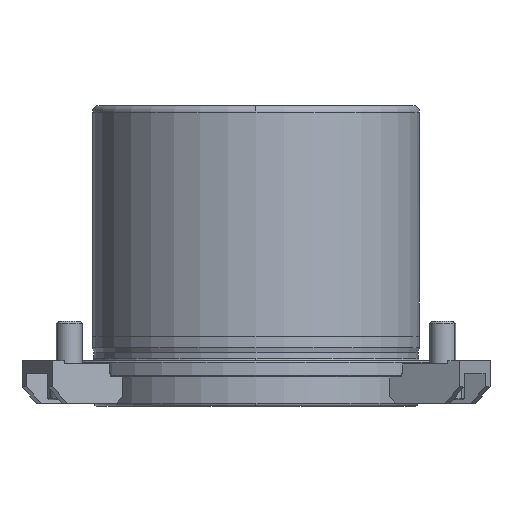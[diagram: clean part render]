
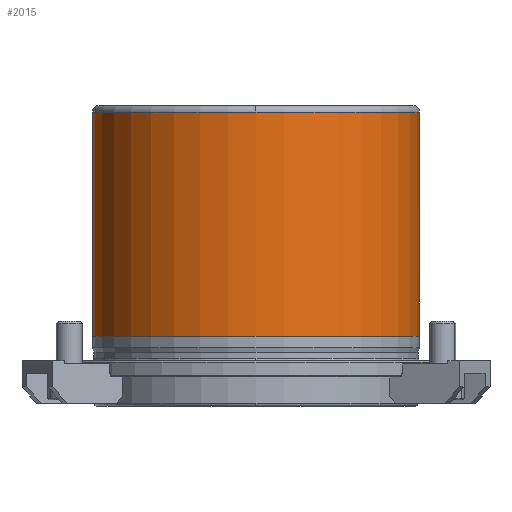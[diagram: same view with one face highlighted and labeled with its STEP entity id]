
A CAD part, front view. The second image highlights one B-rep face of the part: STEP entity #2015.
In plain terms, the highlighted cylindrical face has radius 49.995 mm (diameter 99.99 mm), a partial arc.
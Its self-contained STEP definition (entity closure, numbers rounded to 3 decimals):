
#954=CARTESIAN_POINT('',(49.995,0.,7.4));
#955=VERTEX_POINT('',#954);
#956=CARTESIAN_POINT('',(49.995,0.,29.4));
#957=VERTEX_POINT('',#956);
#958=CARTESIAN_POINT('',(49.995,0.,7.4));
#959=DIRECTION('',(0.0,0.0,1.0));
#960=VECTOR('',#959,22.0);
#961=LINE('',#958,#960);
#962=EDGE_CURVE('',#955,#957,#961,.T.);
#964=CARTESIAN_POINT('',(-49.995,0.,7.4));
#965=VERTEX_POINT('',#964);
#973=CARTESIAN_POINT('',(-49.995,0.,76.0));
#974=VERTEX_POINT('',#973);
#975=CARTESIAN_POINT('',(-49.995,0.,7.4));
#976=DIRECTION('',(0.0,0.0,1.0));
#977=VECTOR('',#976,68.6);
#978=LINE('',#975,#977);
#979=EDGE_CURVE('',#965,#974,#978,.T.);
#990=CARTESIAN_POINT('',(49.995,0.,76.0));
#991=VERTEX_POINT('',#990);
#999=CARTESIAN_POINT('',(49.995,0.,34.6));
#1000=VERTEX_POINT('',#999);
#1001=CARTESIAN_POINT('',(49.995,0.,34.6));
#1002=DIRECTION('',(0.0,0.0,1.0));
#1003=VECTOR('',#1002,41.4);
#1004=LINE('',#1001,#1003);
#1005=EDGE_CURVE('',#1000,#991,#1004,.T.);
#1062=CARTESIAN_POINT('',(0.,-49.995,76.));
#1063=VERTEX_POINT('',#1062);
#1064=CARTESIAN_POINT('',(0.0,0.,76.0));
#1065=DIRECTION('',(0.0,0.0,-1.0));
#1066=DIRECTION('',(1.0,0.0,0.0));
#1067=AXIS2_PLACEMENT_3D('',#1064,#1065,#1066);
#1068=CIRCLE('',#1067,49.995);
#1069=EDGE_CURVE('',#1063,#974,#1068,.T.);
#1515=CARTESIAN_POINT('',(49.927,-2.6,32.0));
#1516=VERTEX_POINT('',#1515);
#1517=CARTESIAN_POINT('',(49.927,-2.6,32.0));
#1518=CARTESIAN_POINT('',(49.927,-2.6,32.163));
#1519=CARTESIAN_POINT('',(49.928,-2.584,32.332));
#1520=CARTESIAN_POINT('',(49.932,-2.519,32.668));
#1521=CARTESIAN_POINT('',(49.934,-2.468,32.835));
#1522=CARTESIAN_POINT('',(49.94,-2.336,33.155));
#1523=CARTESIAN_POINT('',(49.944,-2.253,33.309));
#1524=CARTESIAN_POINT('',(49.953,-2.062,33.593));
#1525=CARTESIAN_POINT('',(49.957,-1.954,33.723));
#1526=CARTESIAN_POINT('',(49.965,-1.723,33.954));
#1527=CARTESIAN_POINT('',(49.97,-1.593,34.062));
#1528=CARTESIAN_POINT('',(49.978,-1.309,34.253));
#1529=CARTESIAN_POINT('',(49.982,-1.155,34.336));
#1530=CARTESIAN_POINT('',(49.988,-0.835,34.468));
#1531=CARTESIAN_POINT('',(49.991,-0.668,34.519));
#1532=CARTESIAN_POINT('',(49.994,-0.332,34.584));
#1533=CARTESIAN_POINT('',(49.995,-0.163,34.6));
#1534=CARTESIAN_POINT('',(49.995,0.,34.6));
#1535=B_SPLINE_CURVE_WITH_KNOTS('',3,(#1517,#1518,#1519,#1520,#1521,#1522,#1523,#1524,#1525,#1526,#1527,#1528,#1529,#1530,#1531,#1532,#1533,#1534),.UNSPECIFIED.,.F.,.U.,(4,2,2,2,2,2,2,2,4),(0.0,0.49,0.98,1.469,1.959,2.449,2.939,3.429,3.918),.UNSPECIFIED.);
#1536=EDGE_CURVE('',#1516,#1000,#1535,.T.);
#1538=CARTESIAN_POINT('',(49.995,0.,29.4));
#1539=CARTESIAN_POINT('',(49.995,-0.163,29.4));
#1540=CARTESIAN_POINT('',(49.994,-0.332,29.416));
#1541=CARTESIAN_POINT('',(49.991,-0.668,29.481));
#1542=CARTESIAN_POINT('',(49.988,-0.835,29.532));
#1543=CARTESIAN_POINT('',(49.982,-1.155,29.664));
#1544=CARTESIAN_POINT('',(49.978,-1.309,29.747));
#1545=CARTESIAN_POINT('',(49.97,-1.593,29.938));
#1546=CARTESIAN_POINT('',(49.965,-1.723,30.046));
#1547=CARTESIAN_POINT('',(49.957,-1.954,30.277));
#1548=CARTESIAN_POINT('',(49.953,-2.062,30.407));
#1549=CARTESIAN_POINT('',(49.944,-2.253,30.691));
#1550=CARTESIAN_POINT('',(49.94,-2.336,30.845));
#1551=CARTESIAN_POINT('',(49.934,-2.468,31.165));
#1552=CARTESIAN_POINT('',(49.932,-2.519,31.332));
#1553=CARTESIAN_POINT('',(49.928,-2.584,31.668));
#1554=CARTESIAN_POINT('',(49.927,-2.6,31.837));
#1555=CARTESIAN_POINT('',(49.927,-2.6,32.0));
#1556=B_SPLINE_CURVE_WITH_KNOTS('',3,(#1538,#1539,#1540,#1541,#1542,#1543,#1544,#1545,#1546,#1547,#1548,#1549,#1550,#1551,#1552,#1553,#1554,#1555),.UNSPECIFIED.,.F.,.U.,(4,2,2,2,2,2,2,2,4),(11.755,12.245,12.734,13.224,13.714,14.204,14.694,15.183,15.673),.UNSPECIFIED.);
#1557=EDGE_CURVE('',#957,#1516,#1556,.T.);
#1983=CARTESIAN_POINT('',(0.0,0.,76.0));
#1984=DIRECTION('',(0.0,0.0,-1.0));
#1985=DIRECTION('',(1.0,0.0,0.0));
#1986=AXIS2_PLACEMENT_3D('',#1983,#1984,#1985);
#1987=CIRCLE('',#1986,49.995);
#1988=EDGE_CURVE('',#991,#1063,#1987,.T.);
#1994=CARTESIAN_POINT('',(0.0,0.,41.7));
#1995=DIRECTION('',(0.0,0.,-1.0));
#1996=DIRECTION('',(1.0,0.0,0.0));
#1997=AXIS2_PLACEMENT_3D('',#1994,#1995,#1996);
#1998=CYLINDRICAL_SURFACE('',#1997,49.995);
#1999=ORIENTED_EDGE('',*,*,#962,.T.);
#2000=ORIENTED_EDGE('',*,*,#1557,.T.);
#2001=ORIENTED_EDGE('',*,*,#1536,.T.);
#2002=ORIENTED_EDGE('',*,*,#1005,.T.);
#2003=ORIENTED_EDGE('',*,*,#1988,.T.);
#2004=ORIENTED_EDGE('',*,*,#1069,.T.);
#2005=ORIENTED_EDGE('',*,*,#979,.F.);
#2006=CARTESIAN_POINT('',(0.0,0.,7.4));
#2007=DIRECTION('',(0.0,0.0,-1.0));
#2008=DIRECTION('',(1.0,0.0,0.0));
#2009=AXIS2_PLACEMENT_3D('',#2006,#2007,#2008);
#2010=CIRCLE('',#2009,49.995);
#2011=EDGE_CURVE('',#955,#965,#2010,.T.);
#2012=ORIENTED_EDGE('',*,*,#2011,.F.);
#2013=EDGE_LOOP('',(#1999,#2000,#2001,#2002,#2003,#2004,#2005,#2012));
#2014=FACE_OUTER_BOUND('',#2013,.T.);
#2015=ADVANCED_FACE('',(#2014),#1998,.T.);
